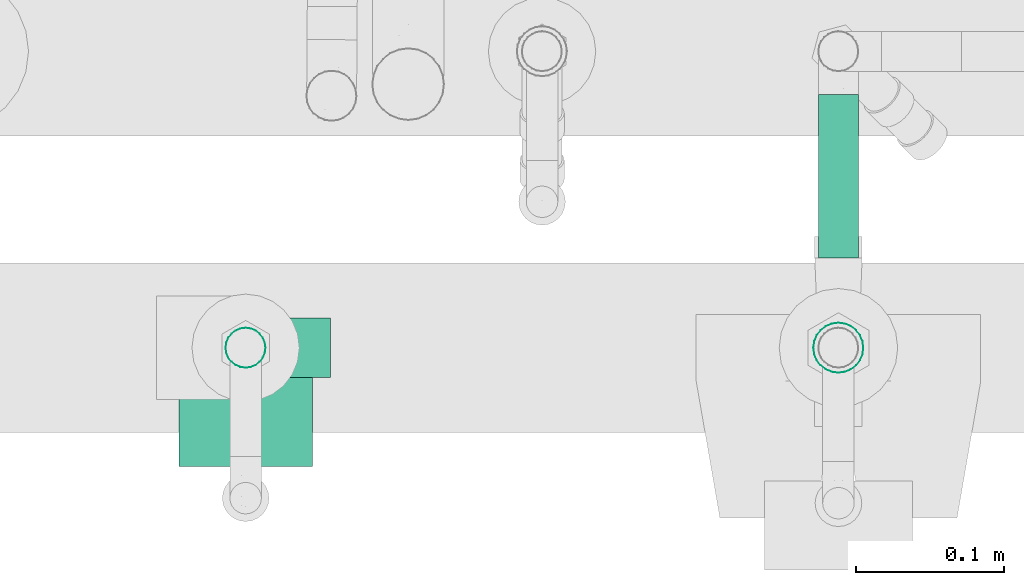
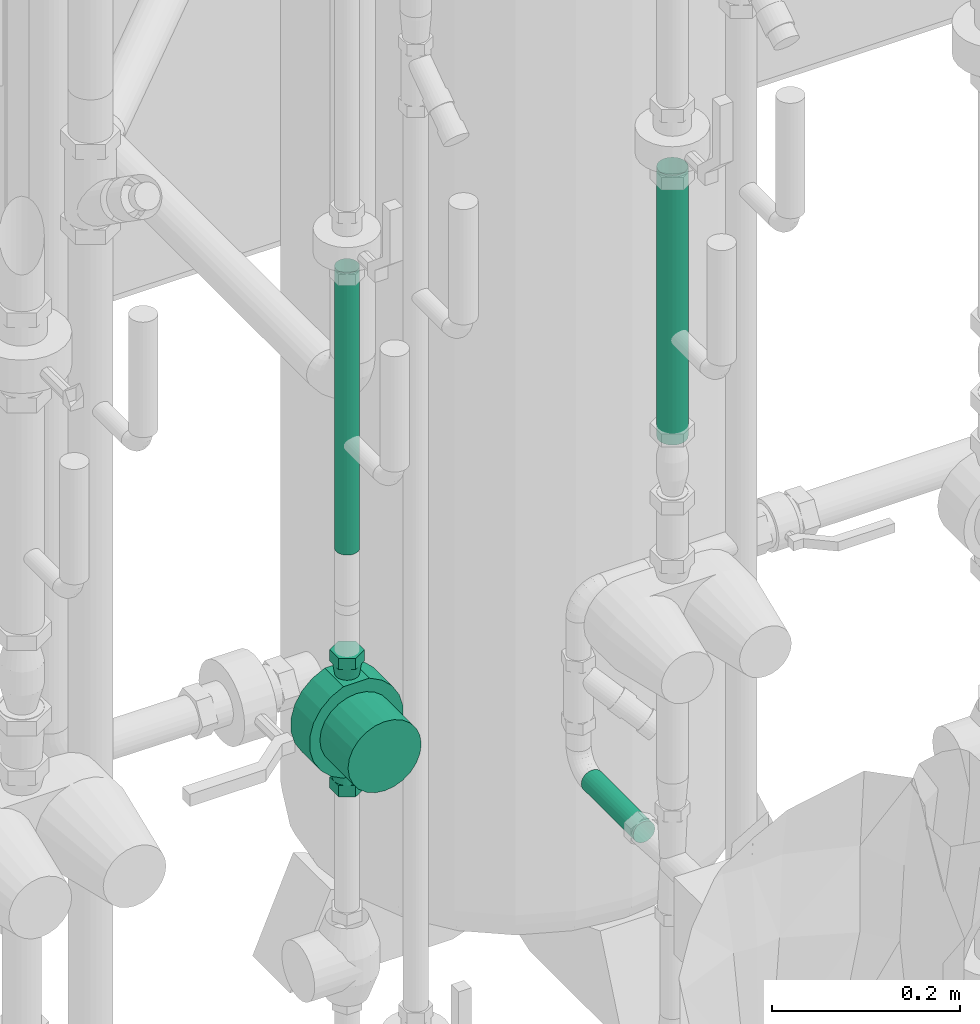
# One storey, part 267 of 374: 3 flow segments, 1 flow moving device.
"""IFC2X3 building model written with IfcOpenShell, lengths in metres."""

from ifc_helpers import new_model, si_unit, direction, origin, place, context, subcontext, project, spatial, open_shell, surface_model, source, transform, mapped, element, save


model = new_model("IFC2X3")

# Units and contexts
model_context = context("Model", 3, precision=1e-05, world=origin(), true_north=direction((-0.4480736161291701, 0.8939966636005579)))
body_context = subcontext(model_context, "Body", "Model", "MODEL_VIEW")
ifc_project = project(units=[si_unit("LENGTHUNIT", "METRE"), si_unit("AREAUNIT", "SQUARE_METRE"), si_unit("VOLUMEUNIT", "CUBIC_METRE"), si_unit("PLANEANGLEUNIT", "RADIAN"), si_unit("THERMODYNAMICTEMPERATUREUNIT", "KELVIN"), si_unit("MASSUNIT", "GRAM", prefix="KILO"), si_unit("TIMEUNIT", "SECOND")], contexts=[model_context])

# Site, building, storey
site_placement = place(None, origin())
site = spatial("IfcSite", under=ifc_project, at=site_placement, Name="Site 1", CompositionType="ELEMENT")
building_placement = place(site_placement, origin())
building = spatial("IfcBuilding", under=site, at=building_placement, Name="Undefined", CompositionType="ELEMENT")
storey_placement = place(building_placement, origin())
storey = spatial("IfcBuildingStorey", under=building, at=storey_placement, Name="Rez de chauss\x8ee", CompositionType="ELEMENT", Elevation=0.0)

# Flow moving device
shared_shape_1 = source(origin(), body_context, "Body", "SurfaceModel", [
    surface_model("IfcFaceBasedSurfaceModel", [(0.0, 0.0, 0.0), (0.018475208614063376, 0.0, 0.0), (0.018475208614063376, 0.014499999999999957, 0.0), (0.0, 0.014499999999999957, 0.0), (-0.009237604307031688, 0.0, 0.016000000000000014), (-0.009237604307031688, 0.014499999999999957, 0.016000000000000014), (0.0, 0.0, 0.03200000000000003), (0.0, 0.014499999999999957, 0.03200000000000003), (0.018475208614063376, 0.0, 0.03200000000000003), (0.018475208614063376, 0.014499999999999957, 0.03200000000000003), (0.027712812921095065, 0.0, 0.016000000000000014), (0.027712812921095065, 0.014499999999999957, 0.016000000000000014), (-0.00676239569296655, 0.014499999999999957, 0.015999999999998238), (-0.006217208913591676, 0.014499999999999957, 0.020141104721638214), (-0.0037540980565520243, 0.03049999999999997, 0.01948111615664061), (-0.004212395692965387, 0.03049999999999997, 0.016000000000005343), (-0.0046188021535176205, 0.014499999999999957, 0.02400000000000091), (-0.0024104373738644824, 0.03049999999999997, 0.022725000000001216), (-0.0020761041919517, 0.014499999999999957, 0.027313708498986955), (-0.0002729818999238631, 0.03049999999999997, 0.025510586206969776), (0.0012376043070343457, 0.014499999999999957, 0.029856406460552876), (0.002512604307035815, 0.03049999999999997, 0.027648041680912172), (0.005096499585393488, 0.014499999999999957, 0.03145481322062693), (0.005756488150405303, 0.03049999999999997, 0.028991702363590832), (0.009237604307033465, 0.014499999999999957, 0.031999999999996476), (0.009237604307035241, 0.03049999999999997, 0.0294500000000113), (0.013378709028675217, 0.014499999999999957, 0.03145481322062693), (0.012718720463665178, 0.03049999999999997, 0.028991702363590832), (0.01723760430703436, 0.014499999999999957, 0.029856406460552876), (0.015962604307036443, 0.03049999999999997, 0.027648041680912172), (0.02055131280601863, 0.014499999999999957, 0.027313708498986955), (0.01874819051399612, 0.03049999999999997, 0.025510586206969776), (0.02309401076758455, 0.014499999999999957, 0.02400000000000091), (0.02088564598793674, 0.03049999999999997, 0.022725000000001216), (0.024692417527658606, 0.014499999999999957, 0.020141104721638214), (0.022229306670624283, 0.03049999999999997, 0.01948111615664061), (0.02523760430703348, 0.014499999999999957, 0.015999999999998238), (0.022687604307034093, 0.03049999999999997, 0.016000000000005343), (0.024692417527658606, 0.014499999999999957, 0.011858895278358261), (0.022229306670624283, 0.03049999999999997, 0.012518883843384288), (0.02309401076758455, 0.014499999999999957, 0.007999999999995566), (0.02088564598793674, 0.03049999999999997, 0.00927500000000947), (0.02055131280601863, 0.014499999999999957, 0.004686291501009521), (0.01874819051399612, 0.03049999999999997, 0.00648941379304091), (0.01723760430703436, 0.014499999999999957, 0.0021435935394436), (0.015962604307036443, 0.03049999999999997, 0.00435195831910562), (0.013378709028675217, 0.014499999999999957, 0.0005451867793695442), (0.012718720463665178, 0.03049999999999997, 0.0030082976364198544), (0.009237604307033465, 0.014499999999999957, 0.0), (0.009237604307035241, 0.03049999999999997, 0.0025500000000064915), (0.005096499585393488, 0.014499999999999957, 0.0005451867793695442), (0.005756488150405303, 0.03049999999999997, 0.0030082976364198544), (0.0012376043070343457, 0.014499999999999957, 0.0021435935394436), (0.002512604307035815, 0.03049999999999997, 0.00435195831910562), (-0.0020761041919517, 0.014499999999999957, 0.004686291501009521), (-0.0002729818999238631, 0.03049999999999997, 0.00648941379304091), (-0.0046188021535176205, 0.014499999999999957, 0.007999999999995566), (-0.0024104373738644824, 0.03049999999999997, 0.00927500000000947), (-0.006217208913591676, 0.014499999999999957, 0.011858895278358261), (-0.0037540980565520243, 0.03049999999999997, 0.012518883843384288), (-0.0042123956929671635, 0.14949999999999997, 0.015999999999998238), (-0.0037540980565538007, 0.14949999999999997, 0.019481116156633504), (-0.0062172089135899, 0.16549999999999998, 0.02014110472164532), (-0.00676239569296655, 0.16549999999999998, 0.015999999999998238), (-0.0024104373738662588, 0.14949999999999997, 0.02272499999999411), (-0.004618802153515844, 0.16549999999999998, 0.02400000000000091), (-0.0002729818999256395, 0.14949999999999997, 0.02551058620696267), (-0.0020761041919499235, 0.16549999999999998, 0.027313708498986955), (0.0025126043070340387, 0.14949999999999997, 0.02764804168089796), (0.001237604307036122, 0.16549999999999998, 0.029856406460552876), (0.005756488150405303, 0.14949999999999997, 0.028991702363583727), (0.005096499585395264, 0.16549999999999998, 0.03145481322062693), (0.009237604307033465, 0.14949999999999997, 0.02944999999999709), (0.009237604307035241, 0.16549999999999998, 0.031999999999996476), (0.012718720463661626, 0.14949999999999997, 0.028991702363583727), (0.013378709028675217, 0.16549999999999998, 0.03145481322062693), (0.015962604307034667, 0.14949999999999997, 0.02764804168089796), (0.017237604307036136, 0.16549999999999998, 0.029856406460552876), (0.01874819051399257, 0.14949999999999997, 0.02551058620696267), (0.020551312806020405, 0.16549999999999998, 0.027313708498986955), (0.020885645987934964, 0.14949999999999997, 0.02272499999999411), (0.023094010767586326, 0.16549999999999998, 0.02400000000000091), (0.022229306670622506, 0.14949999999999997, 0.019481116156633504), (0.024692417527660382, 0.16549999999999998, 0.02014110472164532), (0.022687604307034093, 0.14949999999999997, 0.015999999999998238), (0.025237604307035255, 0.16549999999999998, 0.015999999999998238), (0.022229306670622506, 0.14949999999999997, 0.012518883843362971), (0.024692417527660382, 0.16549999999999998, 0.011858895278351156), (0.020885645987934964, 0.14949999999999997, 0.009275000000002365), (0.023094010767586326, 0.16549999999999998, 0.007999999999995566), (0.01874819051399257, 0.14949999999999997, 0.006489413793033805), (0.020551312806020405, 0.16549999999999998, 0.004686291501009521), (0.015962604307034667, 0.14949999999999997, 0.0043519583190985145), (0.017237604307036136, 0.16549999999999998, 0.0021435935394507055), (0.012718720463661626, 0.14949999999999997, 0.003008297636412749), (0.013378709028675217, 0.16549999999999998, 0.0005451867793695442), (0.009237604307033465, 0.14949999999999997, 0.002549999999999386), (0.009237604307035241, 0.16549999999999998, 7.105427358e-15), (0.005756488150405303, 0.14949999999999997, 0.003008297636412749), (0.005096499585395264, 0.16549999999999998, 0.0005451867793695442), (0.0025126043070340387, 0.14949999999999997, 0.0043519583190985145), (0.001237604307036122, 0.16549999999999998, 0.0021435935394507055), (-0.0002729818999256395, 0.14949999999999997, 0.006489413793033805), (-0.0020761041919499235, 0.16549999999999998, 0.004686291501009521), (-0.0024104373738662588, 0.14949999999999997, 0.009275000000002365), (-0.004618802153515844, 0.16549999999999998, 0.007999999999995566), (-0.0037540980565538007, 0.14949999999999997, 0.012518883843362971), (-0.0062172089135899, 0.16549999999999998, 0.011858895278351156), (0.0, 0.16549999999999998, 0.0), (0.018475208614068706, 0.16549999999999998, 0.0), (0.018475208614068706, 0.17999999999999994, 0.0), (0.0, 0.17999999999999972, 0.0), (-0.009237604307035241, 0.16549999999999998, 0.015999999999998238), (-0.009237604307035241, 0.17999999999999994, 0.015999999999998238), (0.0, 0.16549999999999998, 0.031999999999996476), (0.0, 0.17999999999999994, 0.031999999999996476), (0.018475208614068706, 0.16549999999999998, 0.031999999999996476), (0.018475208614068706, 0.17999999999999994, 0.031999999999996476), (0.02771281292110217, 0.16549999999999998, 0.015999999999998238), (0.02771281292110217, 0.17999999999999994, 0.015999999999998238), (0.029237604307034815, 0.03049999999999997, 0.031999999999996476), (0.029237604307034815, 0.03049999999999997, 0.0), (-0.010762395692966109, 0.03049999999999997, 0.0), (-0.010762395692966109, 0.03049999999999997, 0.031999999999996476), (0.029237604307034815, 0.14949999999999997, 0.0), (0.029237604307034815, 0.1415884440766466, -0.015268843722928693), (-0.010762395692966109, 0.1415884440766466, -0.015268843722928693), (-0.010762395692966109, 0.14949999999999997, 0.0), (0.029237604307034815, 0.12985076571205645, -0.027836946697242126), (-0.010762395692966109, 0.12985076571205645, -0.027836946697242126), (0.029237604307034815, 0.11515750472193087, -0.036772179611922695), (-0.010762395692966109, 0.11515750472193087, -0.036772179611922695), (0.029237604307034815, 0.09859840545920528, -0.04141184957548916), (-0.010762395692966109, 0.09859840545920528, -0.04141184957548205), (0.029237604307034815, 0.08140159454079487, -0.04141184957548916), (-0.010762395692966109, 0.08140159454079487, -0.04141184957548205), (0.029237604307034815, 0.06484249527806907, -0.036772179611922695), (-0.010762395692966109, 0.06484249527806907, -0.036772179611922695), (0.029237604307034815, 0.05014923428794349, -0.027836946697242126), (-0.010762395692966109, 0.05014923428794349, -0.027836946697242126), (0.029237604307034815, 0.038411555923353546, -0.015268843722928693), (-0.010762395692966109, 0.038411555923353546, -0.015268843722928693), (0.029237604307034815, 0.14949999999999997, 0.031999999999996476), (-0.010762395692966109, 0.14949999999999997, 0.031999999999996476), (0.029237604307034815, 0.038411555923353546, 0.04726884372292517), (-0.010762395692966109, 0.038411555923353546, 0.04726884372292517), (0.029237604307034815, 0.05014923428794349, 0.0598369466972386), (-0.010762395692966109, 0.05014923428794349, 0.0598369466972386), (0.029237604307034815, 0.06484249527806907, 0.06877217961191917), (-0.010762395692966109, 0.06484249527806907, 0.06877217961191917), (0.029237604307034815, 0.08140159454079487, 0.07341184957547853), (-0.010762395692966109, 0.08140159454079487, 0.07341184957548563), (0.029237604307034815, 0.09859840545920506, 0.07341184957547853), (-0.010762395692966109, 0.09859840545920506, 0.07341184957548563), (0.029237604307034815, 0.11515750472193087, 0.06877217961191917), (-0.010762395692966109, 0.11515750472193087, 0.06877217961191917), (0.029237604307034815, 0.12985076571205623, 0.0598369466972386), (-0.010762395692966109, 0.12985076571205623, 0.0598369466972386), (0.029237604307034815, 0.1415884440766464, 0.04726884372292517), (-0.010762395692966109, 0.1415884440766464, 0.04726884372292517), (0.029237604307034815, 0.135, 0.015999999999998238), (0.029237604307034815, 0.13346666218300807, 0.027646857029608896), (0.08923760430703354, 0.13346666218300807, 0.027646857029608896), (0.08923760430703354, 0.135, 0.015999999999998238), (0.029237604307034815, 0.12897114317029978, 0.03849999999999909), (0.08923760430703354, 0.12897114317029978, 0.03849999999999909), (0.029237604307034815, 0.12181980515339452, 0.04781980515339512), (0.08923760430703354, 0.12181980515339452, 0.04781980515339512), (0.029237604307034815, 0.11250000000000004, 0.054971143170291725), (0.08923760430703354, 0.11250000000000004, 0.054971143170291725), (0.029237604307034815, 0.1016468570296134, 0.059466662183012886), (0.08923760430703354, 0.1016468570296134, 0.059466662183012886), (0.029237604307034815, 0.09000000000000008, 0.06099999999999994), (0.08923760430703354, 0.09000000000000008, 0.06099999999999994), (0.029237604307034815, 0.07835314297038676, 0.059466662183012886), (0.08923760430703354, 0.07835314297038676, 0.059466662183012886), (0.029237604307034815, 0.06750000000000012, 0.054971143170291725), (0.08923760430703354, 0.06750000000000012, 0.054971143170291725), (0.029237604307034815, 0.058180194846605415, 0.04781980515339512), (0.08923760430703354, 0.058180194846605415, 0.04781980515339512), (0.029237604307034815, 0.051028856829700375, 0.03849999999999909), (0.08923760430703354, 0.051028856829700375, 0.03849999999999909), (0.029237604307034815, 0.04653333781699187, 0.027646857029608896), (0.08923760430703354, 0.04653333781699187, 0.027646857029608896), (0.029237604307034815, 0.04499999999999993, 0.015999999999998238), (0.08923760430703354, 0.04499999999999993, 0.015999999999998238), (0.029237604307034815, 0.04653333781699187, 0.00435314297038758), (0.08923760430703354, 0.04653333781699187, 0.00435314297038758), (0.029237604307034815, 0.051028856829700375, -0.006500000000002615), (0.08923760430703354, 0.051028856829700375, -0.006500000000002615), (0.029237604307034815, 0.058180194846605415, -0.015819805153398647), (0.08923760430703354, 0.058180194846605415, -0.015819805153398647), (0.029237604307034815, 0.06750000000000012, -0.02297114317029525), (0.08923760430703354, 0.06750000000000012, -0.02297114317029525), (0.029237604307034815, 0.07835314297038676, -0.027466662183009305), (0.08923760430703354, 0.07835314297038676, -0.027466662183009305), (0.029237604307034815, 0.09000000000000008, -0.029000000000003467), (0.08923760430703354, 0.09000000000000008, -0.029000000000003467), (0.029237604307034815, 0.1016468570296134, -0.027466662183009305), (0.08923760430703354, 0.1016468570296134, -0.027466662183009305), (0.029237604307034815, 0.11250000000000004, -0.02297114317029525), (0.08923760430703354, 0.11250000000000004, -0.02297114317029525), (0.029237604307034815, 0.12181980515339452, -0.015819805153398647), (0.08923760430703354, 0.12181980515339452, -0.015819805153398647), (0.029237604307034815, 0.12897114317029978, -0.006500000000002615), (0.08923760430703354, 0.12897114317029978, -0.006500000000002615), (0.029237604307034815, 0.13346666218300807, 0.00435314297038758), (0.08923760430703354, 0.13346666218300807, 0.00435314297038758), (0.08923760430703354, 0.09000000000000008, 0.015999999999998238)], [open_shell([[[0, 1, 2, 3]], [[4, 0, 3, 5]], [[6, 4, 5, 7]], [[8, 6, 7, 9]], [[10, 8, 9, 11]], [[1, 10, 11, 2]], [[1, 0, 4]], [[1, 4, 6]], [[1, 6, 8]], [[1, 8, 10]], [[2, 5, 3]], [[2, 7, 5]], [[2, 9, 7]], [[2, 11, 9]], [[12, 13, 14, 15]], [[13, 16, 17, 14]], [[16, 18, 19, 17]], [[18, 20, 21, 19]], [[20, 22, 23, 21]], [[22, 24, 25, 23]], [[24, 26, 27, 25]], [[26, 28, 29, 27]], [[28, 30, 31, 29]], [[30, 32, 33, 31]], [[32, 34, 35, 33]], [[34, 36, 37, 35]], [[36, 38, 39, 37]], [[38, 40, 41, 39]], [[40, 42, 43, 41]], [[42, 44, 45, 43]], [[44, 46, 47, 45]], [[46, 48, 49, 47]], [[48, 50, 51, 49]], [[50, 52, 53, 51]], [[52, 54, 55, 53]], [[54, 56, 57, 55]], [[56, 58, 59, 57]], [[58, 12, 15, 59]], [[60, 61, 62, 63]], [[61, 64, 65, 62]], [[64, 66, 67, 65]], [[66, 68, 69, 67]], [[68, 70, 71, 69]], [[70, 72, 73, 71]], [[72, 74, 75, 73]], [[74, 76, 77, 75]], [[76, 78, 79, 77]], [[78, 80, 81, 79]], [[80, 82, 83, 81]], [[82, 84, 85, 83]], [[84, 86, 87, 85]], [[86, 88, 89, 87]], [[88, 90, 91, 89]], [[90, 92, 93, 91]], [[92, 94, 95, 93]], [[94, 96, 97, 95]], [[96, 98, 99, 97]], [[98, 100, 101, 99]], [[100, 102, 103, 101]], [[102, 104, 105, 103]], [[104, 106, 107, 105]], [[106, 60, 63, 107]], [[108, 109, 110, 111]], [[112, 108, 111, 113]], [[114, 112, 113, 115]], [[116, 114, 115, 117]], [[118, 116, 117, 119]], [[109, 118, 119, 110]], [[109, 108, 112]], [[109, 112, 114]], [[109, 114, 116]], [[109, 116, 118]], [[110, 113, 111]], [[110, 115, 113]], [[110, 117, 115]], [[110, 119, 117]], [[120, 121, 122, 123]], [[124, 125, 126, 127]], [[125, 128, 129, 126]], [[128, 130, 131, 129]], [[130, 132, 133, 131]], [[132, 134, 135, 133]], [[134, 136, 137, 135]], [[136, 138, 139, 137]], [[138, 140, 141, 139]], [[140, 121, 122, 141]], [[124, 142, 143, 127]], [[120, 144, 145, 123]], [[144, 146, 147, 145]], [[146, 148, 149, 147]], [[148, 150, 151, 149]], [[150, 152, 153, 151]], [[152, 154, 155, 153]], [[154, 156, 157, 155]], [[156, 158, 159, 157]], [[158, 142, 143, 159]], [[141, 122, 123]], [[139, 141, 123]], [[137, 139, 123]], [[135, 137, 123]], [[133, 135, 123]], [[131, 133, 123]], [[129, 131, 123]], [[126, 129, 123]], [[127, 126, 123]], [[143, 127, 123]], [[159, 143, 123]], [[157, 159, 123]], [[155, 157, 123]], [[153, 155, 123]], [[151, 153, 123]], [[149, 151, 123]], [[147, 149, 123]], [[145, 147, 123]], [[120, 121, 140]], [[120, 140, 138]], [[120, 138, 136]], [[120, 136, 134]], [[120, 134, 132]], [[120, 132, 130]], [[120, 130, 128]], [[120, 128, 125]], [[120, 125, 124]], [[120, 124, 142]], [[120, 142, 158]], [[120, 158, 156]], [[120, 156, 154]], [[120, 154, 152]], [[120, 152, 150]], [[120, 150, 148]], [[120, 148, 146]], [[120, 146, 144]], [[160, 161, 162, 163]], [[161, 164, 165, 162]], [[164, 166, 167, 165]], [[166, 168, 169, 167]], [[168, 170, 171, 169]], [[170, 172, 173, 171]], [[172, 174, 175, 173]], [[174, 176, 177, 175]], [[176, 178, 179, 177]], [[178, 180, 181, 179]], [[180, 182, 183, 181]], [[182, 184, 185, 183]], [[184, 186, 187, 185]], [[186, 188, 189, 187]], [[188, 190, 191, 189]], [[190, 192, 193, 191]], [[192, 194, 195, 193]], [[194, 196, 197, 195]], [[196, 198, 199, 197]], [[198, 200, 201, 199]], [[200, 202, 203, 201]], [[202, 204, 205, 203]], [[204, 206, 207, 205]], [[206, 160, 163, 207]], [[208, 207, 163]], [[208, 205, 207]], [[208, 203, 205]], [[208, 201, 203]], [[208, 199, 201]], [[208, 197, 199]], [[208, 195, 197]], [[208, 193, 195]], [[208, 191, 193]], [[208, 189, 191]], [[208, 187, 189]], [[208, 185, 187]], [[208, 183, 185]], [[208, 181, 183]], [[208, 179, 181]], [[208, 177, 179]], [[208, 175, 177]], [[208, 173, 175]], [[208, 171, 173]], [[208, 169, 171]], [[208, 167, 169]], [[208, 165, 167]], [[208, 162, 165]], [[208, 163, 162]]])]),
])
flow_moving_device_placement = place(storey_placement, origin())
element("IfcFlowMovingDevice", 1, at=flow_moving_device_placement, inside=storey, Name="Pompe insérée dans réseau", ObjectType="Pompe insérée dans réseau", context=body_context, shape_type="MappedRepresentation", body=[
    mapped(shared_shape_1, transform((52.873562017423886, 10.727274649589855, 1.01), x_axis=(0.0, -1.0, 0.0), y_axis=(0.0, 0.0, 1.0), z_axis=(-1.0, 0.0, 0.0))),
])

# Flow segments
shared_shape_2 = source(origin(), body_context, "Body", "SurfaceModel", [
    surface_model("IfcFaceBasedSurfaceModel", [(0.0, 0.0035111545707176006, 0.0), (0.0, 0.0, 0.0), (0.36684156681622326, 1.776356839e-15, 7.105427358e-15), (0.36684156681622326, 0.003511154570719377, 7.105427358e-15), (0.0, -0.003391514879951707, -0.0009087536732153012), (0.36684156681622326, -0.0033915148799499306, -0.0009087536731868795), (0.0, -0.006432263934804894, -0.0026643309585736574), (0.36684156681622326, -0.006432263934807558, -0.0026643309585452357), (0.0, -0.00891502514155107, -0.005147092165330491), (0.36684156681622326, -0.008915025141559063, -0.00514709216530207), (0.0, -0.010670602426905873, -0.008187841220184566), (0.36684156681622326, -0.010670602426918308, -0.00818784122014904), (0.0, -0.011579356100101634, -0.01157935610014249), (0.36684156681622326, -0.01157935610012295, -0.011579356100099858), (0.0, -0.011579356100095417, -0.015090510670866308), (0.36684156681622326, -0.01157935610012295, -0.015090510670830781), (0.0, -0.010670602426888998, -0.018482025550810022), (0.36684156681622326, -0.010670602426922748, -0.01848202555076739), (0.0, -0.008915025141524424, -0.021522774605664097), (0.36684156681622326, -0.008915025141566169, -0.021522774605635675), (0.0, -0.006432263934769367, -0.02400553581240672), (0.36684156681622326, -0.00643226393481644, -0.024005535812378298), (0.0, -0.0033915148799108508, -0.025761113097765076), (0.36684156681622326, -0.0033915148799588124, -0.02576111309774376), (0.0, 4.2632564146e-14, -0.026669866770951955), (0.36684156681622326, -9.769962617e-15, -0.02666986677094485), (0.0, 0.0035111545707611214, -0.026669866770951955), (0.36684156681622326, 0.003511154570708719, -0.026669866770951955), (0.0, 0.006902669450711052, -0.02576111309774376), (0.36684156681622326, 0.006902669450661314, -0.02576111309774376), (0.0, 0.00994341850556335, -0.024005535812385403), (0.36684156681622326, 0.009943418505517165, -0.02400553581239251), (0.0, 0.012426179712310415, -0.02152277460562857), (0.36684156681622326, 0.012426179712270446, -0.021522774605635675), (0.0, 0.014181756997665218, -0.018482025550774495), (0.36684156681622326, 0.014181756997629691, -0.018482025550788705), (0.0, 0.015090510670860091, -0.01509051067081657), (0.36684156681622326, 0.015090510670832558, -0.015090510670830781), (0.0, 0.015090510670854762, -0.011579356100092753), (0.36684156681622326, 0.015090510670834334, -0.011579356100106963), (0.0, 0.014181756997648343, -0.00818784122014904), (0.36684156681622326, 0.014181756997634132, -0.008187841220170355), (0.0, 0.012426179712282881, -0.005147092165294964), (0.36684156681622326, 0.012426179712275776, -0.00514709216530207), (0.0, 0.009943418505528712, -0.002664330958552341), (0.36684156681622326, 0.009943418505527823, -0.002664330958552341), (0.0, 0.006902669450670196, -0.0009087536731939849), (0.36684156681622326, 0.006902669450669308, -0.0009087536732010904)], [open_shell([[[0, 1, 2, 3]], [[1, 4, 5, 2]], [[4, 6, 7, 5]], [[6, 8, 9, 7]], [[8, 10, 11, 9]], [[10, 12, 13, 11]], [[12, 14, 15, 13]], [[14, 16, 17, 15]], [[16, 18, 19, 17]], [[18, 20, 21, 19]], [[20, 22, 23, 21]], [[22, 24, 25, 23]], [[24, 26, 27, 25]], [[26, 28, 29, 27]], [[28, 30, 31, 29]], [[30, 32, 33, 31]], [[32, 34, 35, 33]], [[34, 36, 37, 35]], [[36, 38, 39, 37]], [[38, 40, 41, 39]], [[40, 42, 43, 41]], [[42, 44, 45, 43]], [[44, 46, 47, 45]], [[46, 0, 3, 47]]])]),
])
flow_segment_1_placement = place(storey_placement, origin())
element("IfcFlowSegment", 2, at=flow_segment_1_placement, inside=storey, Name="Tube acier d'après DIN 2448", ObjectType="Tube acier d'après DIN 2448", context=body_context, shape_type="MappedRepresentation", body=[
    mapped(shared_shape_2, transform((52.87055371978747, 10.72151816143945, 1.3221475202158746), x_axis=(0.0, 0.0, 1.0), y_axis=(0.13052619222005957, -0.9914448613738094, 0.0), z_axis=(0.9914448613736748, 0.13052619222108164, 0.0))),
])
shared_shape_3 = source(origin(), body_context, "Body", "SurfaceModel", [
    surface_model("IfcFaceBasedSurfaceModel", [(0.0, 0.004398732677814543, 0.0), (0.0, 0.0, 0.0), (0.35074156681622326, 8.8817842e-16, 0.0), (0.35074156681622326, 0.004398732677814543, 0.0), (0.0, -0.004248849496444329, -0.00113847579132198), (0.35074156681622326, -0.004248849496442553, -0.0011384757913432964), (0.0, -0.008058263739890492, -0.003337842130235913), (0.35074156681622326, -0.008058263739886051, -0.003337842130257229), (0.0, -0.01116863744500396, -0.0064482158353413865), (0.35074156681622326, -0.01116863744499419, -0.006448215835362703), (0.0, -0.013368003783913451, -0.010257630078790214), (0.35074156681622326, -0.013368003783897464, -0.010257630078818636), (0.0, -0.014506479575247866, -0.014506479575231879), (0.35074156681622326, -0.014506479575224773, -0.0145064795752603), (0.0, -0.01450647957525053, -0.01890521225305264), (0.35074156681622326, -0.014506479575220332, -0.018905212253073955), (0.0, -0.013368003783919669, -0.023154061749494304), (0.35074156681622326, -0.013368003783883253, -0.023154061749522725), (0.0, -0.011168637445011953, -0.02696347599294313), (0.35074156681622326, -0.011168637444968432, -0.026963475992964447), (0.0, -0.008058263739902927, -0.03007384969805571), (0.35074156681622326, -0.008058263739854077, -0.03007384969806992), (0.0, -0.004248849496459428, -0.03227321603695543), (0.35074156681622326, -0.004248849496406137, -0.03227321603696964), (0.0, -1.5099033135e-14, -0.03341169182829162), (0.35074156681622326, 3.8191672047e-14, -0.03341169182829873), (0.0, 0.00439873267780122, -0.03341169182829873), (0.35074156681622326, 0.004398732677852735, -0.03341169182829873), (0.0, 0.008647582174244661, -0.03227321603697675), (0.35074156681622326, 0.008647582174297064, -0.03227321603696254), (0.0, 0.012456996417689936, -0.030073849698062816), (0.35074156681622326, 0.012456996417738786, -0.0300738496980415), (0.0, 0.01556737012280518, -0.026963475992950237), (0.35074156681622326, 0.015567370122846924, -0.026963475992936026), (0.0, 0.017766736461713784, -0.023154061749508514), (0.35074156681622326, 0.01776673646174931, -0.023154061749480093), (0.0, 0.018905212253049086, -0.01890521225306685), (0.35074156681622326, 0.018905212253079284, -0.018905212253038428), (0.0, 0.018905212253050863, -0.01450647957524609), (0.35074156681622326, 0.01890521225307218, -0.014506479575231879), (0.0, 0.01776673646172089, -0.01025763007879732), (0.35074156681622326, 0.017766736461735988, -0.010257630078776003), (0.0, 0.015567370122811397, -0.006448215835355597), (0.35074156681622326, 0.015567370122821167, -0.006448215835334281), (0.0, 0.012456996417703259, -0.0033378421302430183), (0.35074156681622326, 0.012456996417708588, -0.003337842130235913), (0.0, 0.00864758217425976, -0.0011384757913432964), (0.35074156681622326, 0.00864758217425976, -0.0011384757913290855)], [open_shell([[[0, 1, 2, 3]], [[1, 4, 5, 2]], [[4, 6, 7, 5]], [[6, 8, 9, 7]], [[8, 10, 11, 9]], [[10, 12, 13, 11]], [[12, 14, 15, 13]], [[14, 16, 17, 15]], [[16, 18, 19, 17]], [[18, 20, 21, 19]], [[20, 22, 23, 21]], [[22, 24, 25, 23]], [[24, 26, 27, 25]], [[26, 28, 29, 27]], [[28, 30, 31, 29]], [[30, 32, 33, 31]], [[32, 34, 35, 33]], [[34, 36, 37, 35]], [[36, 38, 39, 37]], [[38, 40, 41, 39]], [[40, 42, 43, 41]], [[42, 44, 45, 43]], [[44, 46, 47, 45]], [[46, 0, 3, 47]]])]),
])
flow_segment_2_placement = place(storey_placement, origin())
element("IfcFlowSegment", 3, at=flow_segment_2_placement, inside=storey, Name="Tube acier d'après DIN 2448", ObjectType="Tube acier d'après DIN 2448", context=body_context, shape_type="MappedRepresentation", body=[
    mapped(shared_shape_3, transform((53.27383786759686, 10.722398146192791, 1.3275475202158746), x_axis=(0.0, 0.0, 1.0), y_axis=(0.13052619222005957, -0.9914448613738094, 0.0), z_axis=(0.9914448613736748, 0.13052619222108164, 0.0))),
])
shared_shape_4 = source(origin(), body_context, "Body", "SurfaceModel", [
    surface_model("IfcFaceBasedSurfaceModel", [(0.0, 0.0035111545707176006, 0.0), (0.0, 0.0, 0.0), (0.11050000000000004, 8.8817842e-16, -7.105427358e-15), (0.11050000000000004, 0.003511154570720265, 0.0), (0.0, -0.003391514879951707, -0.0009087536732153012), (0.11050000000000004, -0.0033915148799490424, -0.0009087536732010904), (0.0, -0.006432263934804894, -0.0026643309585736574), (0.11050000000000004, -0.00643226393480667, -0.002664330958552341), (0.0, -0.00891502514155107, -0.005147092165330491), (0.11050000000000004, -0.008915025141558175, -0.00514709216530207), (0.0, -0.010670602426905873, -0.008187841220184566), (0.11050000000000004, -0.01067060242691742, -0.008187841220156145), (0.0, -0.011579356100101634, -0.01157935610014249), (0.11050000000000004, -0.011579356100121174, -0.011579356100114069), (0.0, -0.011579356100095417, -0.015090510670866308), (0.11050000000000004, -0.011579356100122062, -0.015090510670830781), (0.0, -0.010670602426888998, -0.018482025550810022), (0.11050000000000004, -0.010670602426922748, -0.018482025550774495), (0.0, -0.008915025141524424, -0.021522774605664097), (0.11050000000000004, -0.008915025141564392, -0.021522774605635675), (0.0, -0.006432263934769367, -0.02400553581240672), (0.11050000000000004, -0.006432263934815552, -0.02400553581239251), (0.0, -0.0033915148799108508, -0.025761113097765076), (0.11050000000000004, -0.0033915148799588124, -0.025761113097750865), (0.0, 4.2632564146e-14, -0.026669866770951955), (0.11050000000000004, -8.881784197e-15, -0.026669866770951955), (0.0, 0.0035111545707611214, -0.026669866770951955), (0.11050000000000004, 0.003511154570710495, -0.026669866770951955), (0.0, 0.006902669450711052, -0.02576111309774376), (0.11050000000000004, 0.006902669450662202, -0.02576111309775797), (0.0, 0.00994341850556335, -0.024005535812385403), (0.11050000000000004, 0.009943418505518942, -0.02400553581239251), (0.0, 0.012426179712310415, -0.02152277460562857), (0.11050000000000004, 0.012426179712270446, -0.02152277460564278), (0.0, 0.014181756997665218, -0.018482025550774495), (0.11050000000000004, 0.014181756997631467, -0.018482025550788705), (0.0, 0.015090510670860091, -0.01509051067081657), (0.11050000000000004, 0.015090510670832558, -0.015090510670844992), (0.0, 0.015090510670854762, -0.011579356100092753), (0.11050000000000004, 0.01509051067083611, -0.011579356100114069), (0.0, 0.014181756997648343, -0.00818784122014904), (0.11050000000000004, 0.01418175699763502, -0.008187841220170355), (0.0, 0.012426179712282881, -0.005147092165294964), (0.11050000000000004, 0.012426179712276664, -0.005147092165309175), (0.0, 0.009943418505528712, -0.002664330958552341), (0.11050000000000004, 0.009943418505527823, -0.002664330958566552), (0.0, 0.006902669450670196, -0.0009087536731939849), (0.11050000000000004, 0.006902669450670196, -0.0009087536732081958)], [open_shell([[[0, 1, 2, 3]], [[1, 4, 5, 2]], [[4, 6, 7, 5]], [[6, 8, 9, 7]], [[8, 10, 11, 9]], [[10, 12, 13, 11]], [[12, 14, 15, 13]], [[14, 16, 17, 15]], [[16, 18, 19, 17]], [[18, 20, 21, 19]], [[20, 22, 23, 21]], [[22, 24, 25, 23]], [[24, 26, 27, 25]], [[26, 28, 29, 27]], [[28, 30, 31, 29]], [[30, 32, 33, 31]], [[32, 34, 35, 33]], [[34, 36, 37, 35]], [[36, 38, 39, 37]], [[38, 40, 41, 39]], [[40, 42, 43, 41]], [[42, 44, 45, 43]], [[44, 46, 47, 45]], [[46, 0, 3, 47]]])]),
])
flow_segment_3_placement = place(storey_placement, origin())
element("IfcFlowSegment", 4, at=flow_segment_3_placement, inside=storey, Name="Tube acier d'après DIN 2448", ObjectType="Tube acier d'après DIN 2448", context=body_context, shape_type="MappedRepresentation", body=[
    mapped(shared_shape_4, transform((53.27055371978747, 10.778537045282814, 0.772870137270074), x_axis=(0.0, 1.0, 0.0), y_axis=(0.1305261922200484, 0.0, 0.9914448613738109), z_axis=(0.9914448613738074, 0.0, -0.13052619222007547))),
])

save(model, "model.ifc")
